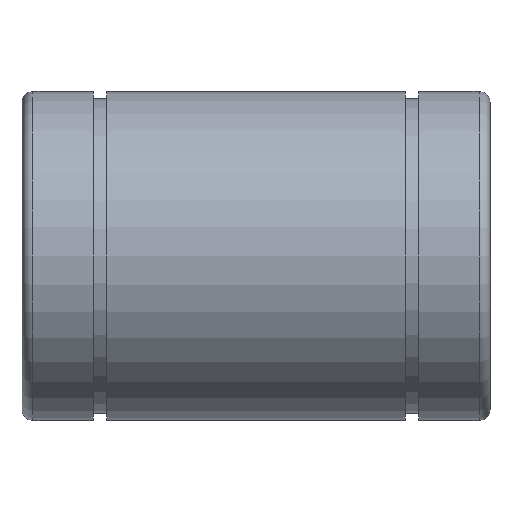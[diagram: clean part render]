
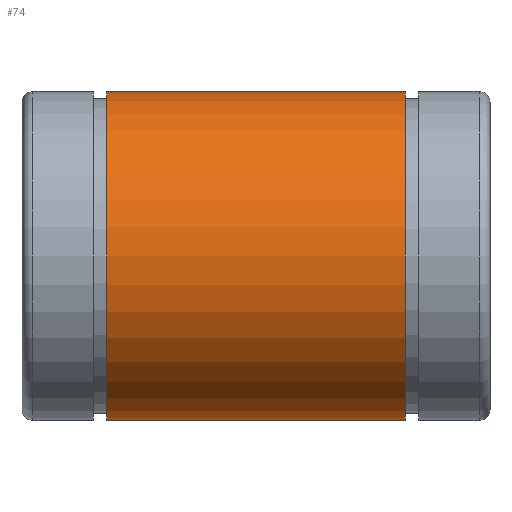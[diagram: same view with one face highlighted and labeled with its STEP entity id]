
A CAD part, front view. The second image highlights one B-rep face of the part: STEP entity #74.
In plain terms, the highlighted cylindrical face has radius 22.5 mm (diameter 45 mm), a full revolution.
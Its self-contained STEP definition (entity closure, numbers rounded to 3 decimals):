
#74 = ADVANCED_FACE( '', ( #159, #160 ), #161, .T. );
#159 = FACE_OUTER_BOUND( '', #238, .T. );
#160 = FACE_OUTER_BOUND( '', #239, .T. );
#161 = CYLINDRICAL_SURFACE( '', #240, 22.5 );
#238 = EDGE_LOOP( '', ( #343 ) );
#239 = EDGE_LOOP( '', ( #344 ) );
#240 = AXIS2_PLACEMENT_3D( '', #345, #346, #347 );
#343 = ORIENTED_EDGE( '', *, *, #372, .F. );
#344 = ORIENTED_EDGE( '', *, *, #376, .T. );
#345 = CARTESIAN_POINT( '', ( 32., 0., 0. ) );
#346 = DIRECTION( '', ( -1., 0., 0. ) );
#347 = DIRECTION( '', ( 0., 1., 0. ) );
#372 = EDGE_CURVE( '', #419, #419, #420, .T. );
#376 = EDGE_CURVE( '', #425, #425, #426, .T. );
#419 = VERTEX_POINT( '', #473 );
#420 = CIRCLE( '', #474, 22.5 );
#425 = VERTEX_POINT( '', #479 );
#426 = CIRCLE( '', #480, 22.5 );
#473 = CARTESIAN_POINT( '', ( 11.6, 22.5, 0. ) );
#474 = AXIS2_PLACEMENT_3D( '', #531, #532, #533 );
#479 = CARTESIAN_POINT( '', ( 52.4, 22.5, 0. ) );
#480 = AXIS2_PLACEMENT_3D( '', #537, #538, #539 );
#531 = CARTESIAN_POINT( '', ( 11.6, 0., 0. ) );
#532 = DIRECTION( '', ( -1., 0., 0. ) );
#533 = DIRECTION( '', ( 0., 1., 0. ) );
#537 = CARTESIAN_POINT( '', ( 52.4, 0., 0. ) );
#538 = DIRECTION( '', ( -1., 0., 0. ) );
#539 = DIRECTION( '', ( 0., 1., 0. ) );
